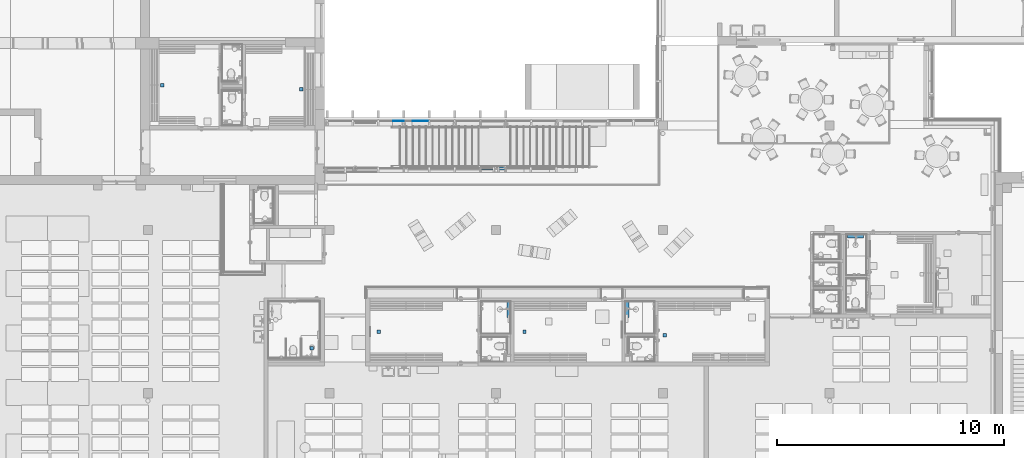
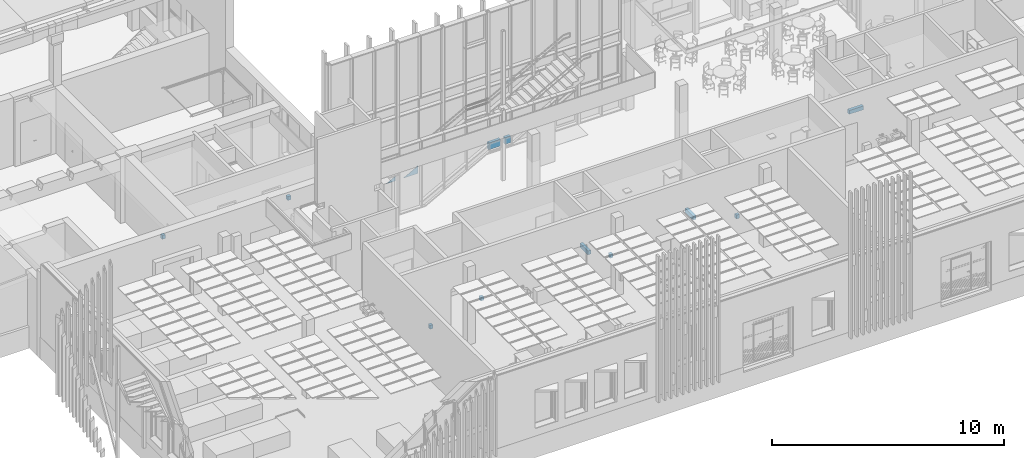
# One storey, part 83 of 301: 9 slabs, 4 plates, 3 elements without a shape of their own.
"""IFC2X3 building model written with IfcOpenShell, lengths in millimetres."""

from ifc_helpers import new_model, entity, si_unit, converted_unit, derived_unit, money_unit, direction, frame, origin_with_axes, place, context, subcontext, project, spatial, faceted_brep, material, type_object, element, aggregate, save


model = new_model("IFC2X3")

# Units and contexts
model_context = context("Model", 3, precision=0.01, world=origin_with_axes(), true_north=direction((0.0, 1.0)))
body_context = subcontext(model_context, "Body", "Model", "MODEL_VIEW")
ifc_project = project(units=[si_unit("LENGTHUNIT", "METRE", prefix="MILLI"), si_unit("AREAUNIT", "SQUARE_METRE"), si_unit("VOLUMEUNIT", "CUBIC_METRE"), converted_unit("PLANEANGLEUNIT", "DEGREE", entity("IfcPlaneAngleMeasure", 0.0174532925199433), si_unit("PLANEANGLEUNIT", "RADIAN"), dimensions=[0, 0, 0, 0, 0, 0, 0]), money_unit("EUR"), converted_unit("TIMEUNIT", "Year", entity("IfcTimeMeasure", 31557600.0), si_unit("TIMEUNIT", "SECOND"), dimensions=[0, 0, 1, 0, 0, 0, 0]), si_unit("MASSUNIT", "GRAM", prefix="KILO"), si_unit("THERMODYNAMICTEMPERATUREUNIT", "DEGREE_CELSIUS"), si_unit("LUMINOUSINTENSITYUNIT", "LUMEN"), si_unit("ENERGYUNIT", "JOULE", prefix="MEGA"), derived_unit("THERMALCONDUCTANCEUNIT", [(si_unit("POWERUNIT", "WATT"), 1), (si_unit("LENGTHUNIT", "METRE"), -1), (si_unit("THERMODYNAMICTEMPERATUREUNIT", "KELVIN"), -1)]), derived_unit("SPECIFICHEATCAPACITYUNIT", [(si_unit("ENERGYUNIT", "JOULE"), 1), (si_unit("MASSUNIT", "GRAM", prefix="KILO"), -1), (si_unit("THERMODYNAMICTEMPERATUREUNIT", "KELVIN"), -1)]), derived_unit("MASSDENSITYUNIT", [(si_unit("MASSUNIT", "GRAM", prefix="KILO"), 1), (si_unit("VOLUMEUNIT", "CUBIC_METRE"), -1)])], contexts=[model_context])

# Site, building, storey
site_placement = place(None, frame((0.0, 0.0, 8650.0), z_axis=(0.0, 0.0, 1.0), x_axis=(1.0, 0.0, 0.0)))
site = spatial("IfcSite", under=ifc_project, at=site_placement, Name="43301:001:0844", CompositionType="ELEMENT")
building_placement = place(site_placement, origin_with_axes())
building = spatial("IfcBuilding", under=site, at=building_placement, Name="Kuressaare Ametikooli tuulikute mehaanikute õppekorpus", CompositionType="ELEMENT")
storey_placement = place(building_placement, origin_with_axes())
storey = spatial("IfcBuildingStorey", under=building, at=storey_placement, Name="1.korrus", CompositionType="ELEMENT", Elevation=0.0)

# Curtain wall, plates
curtain_wall_type = type_object("IfcCurtainWallType", Name="Curtain Wall Type", PredefinedType="NOTDEFINED")
curtain_wall_1_placement = place(storey_placement, frame((116704.6026822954, 28579.57374875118, 35.00000000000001), z_axis=(0.0, 0.0, 1.0), x_axis=(1.0, 0.0, 0.0)))
curtain_wall_1 = element("IfcCurtainWall", 1, at=curtain_wall_1_placement, inside=storey, type_object=curtain_wall_type, Name="KF-1.1")
ifc_material_1 = material(Name="Klaas")
plate_type_1 = type_object("IfcPlateType", Name="Main Panel 733 x 383 x 20", PredefinedType="NOTDEFINED")
plate_1_placement = place(curtain_wall_1_placement, frame((-8626.956418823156, 0.0, 200.1119214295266), z_axis=(0.0, 0.0, 1.0), x_axis=(-1.0, 0.0, 0.0)))
plate_1 = element("IfcPlate", 2, at=plate_1_placement, type_object=plate_type_1, material=ifc_material_1, context=body_context, shape_type="Brep", body=[
    faceted_brep([(-184.4564206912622, 10.00000000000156, 203.5014267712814), (-184.4564206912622, -10.00000000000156, 203.5014267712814), (548.705108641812, -10.00000000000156, -195.1119232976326), (548.705108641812, 10.00000000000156, -195.1119232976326), (-184.4564206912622, 10.00000000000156, 188.3127378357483), (-184.4564206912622, -10.00000000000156, 188.3127378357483), (-184.4564206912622, -10.00000000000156, -195.1119232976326), (-184.4564206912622, 10.00000000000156, -195.1119232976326)], [[[0, 1, 2, 3]], [[4, 5, 1, 0]], [[1, 5, 6, 2]], [[3, 2, 6, 7]], [[0, 3, 7, 4]], [[7, 6, 5, 4]]]),
])
ifc_material_2 = material(Name="Aluminium")
plate_type_2 = type_object("IfcPlateType", Name="454 x 247 x 20", PredefinedType="NOTDEFINED")
plate_2_placement = place(curtain_wall_1_placement, frame((-9721.96157432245, 0.0, 86.69782703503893), z_axis=(0.0, 0.0, 1.0), x_axis=(-1.0, 0.0, 0.0)))
plate_2 = element("IfcPlate", 3, at=plate_2_placement, type_object=plate_type_2, material=ifc_material_2, context=body_context, shape_type="Brep", body=[
    faceted_brep([(-154.4615775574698, 9.99999999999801, 164.9859806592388), (-154.4615775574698, -10.00000000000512, 164.9859806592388), (299.2589989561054, -10.00000000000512, -81.69783027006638), (299.2589989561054, 9.99999999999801, -81.69783027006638), (-154.4615775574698, 9.99999999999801, -81.69783027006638), (-154.4615775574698, -10.00000000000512, -81.69783027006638)], [[[0, 1, 2, 3]], [[4, 5, 1, 0]], [[1, 5, 2]], [[3, 2, 5, 4]], [[0, 3, 4]]]),
])
aggregate(curtain_wall_1, [plate_1, plate_2])

# Slabs
ifc_material_3 = material(Name="GENEERILINE - KONSTRUKTRIOON")
slab_type = type_object("IfcSlabType", Name="GENEERILINE - KONSTRUKTRIOON 200", PredefinedType="NOTDEFINED")
slab_1_placement = place(storey_placement, frame((127405.2610673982, 23424.06892395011, 0.0), z_axis=(0.0, 0.0, 1.0), x_axis=(1.0, 0.0, 0.0)))
element("IfcSlab", 4, at=slab_1_placement, inside=storey, type_object=slab_type, material=ifc_material_3, Name="Põrandatrapp", PredefinedType="NOTDEFINED", context=body_context, shape_type="Brep", body=[
    faceted_brep([(0.0, 0.0, 0.0), (0.0, 0.0, -200.0), (0.0, 149.9999999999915, -200.0), (0.0, 149.9999999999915, 0.0), (-700.0000535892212, 0.0, 0.0), (-700.0000535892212, 0.0, -200.0), (-700.0000535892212, 149.9999999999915, -200.0), (-700.0000535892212, 149.9999999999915, 0.0)], [[[0, 1, 2, 3]], [[4, 5, 1, 0]], [[2, 1, 5, 6]], [[3, 2, 6, 7]], [[4, 0, 3, 7]], [[7, 6, 5, 4]]]),
])
slab_2_placement = place(storey_placement, frame((111695.512280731, 20614.8359121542, 0.0), z_axis=(0.0, 0.0, 1.0), x_axis=(1.0, 0.0, 0.0)))
element("IfcSlab", 5, at=slab_2_placement, inside=storey, type_object=slab_type, material=ifc_material_3, Name="Põrandatrapp", PredefinedType="NOTDEFINED", context=body_context, shape_type="Brep", body=[
    faceted_brep([(0.0, 0.0, 0.0), (0.0, 0.0, -200.0), (0.0, -700.0000535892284, -200.0), (0.0, -700.0000535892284, 0.0), (149.9999999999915, 0.0, 0.0), (149.9999999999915, 0.0, -200.0), (149.9999999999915, -700.0000535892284, -200.0), (149.9999999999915, -700.0000535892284, 0.0)], [[[0, 1, 2, 3]], [[4, 5, 1, 0]], [[2, 1, 5, 6]], [[3, 2, 6, 7]], [[4, 0, 3, 7]], [[7, 6, 5, 4]]]),
])
slab_3_placement = place(storey_placement, frame((117065.2601136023, 20614.83644703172, 0.0), z_axis=(0.0, 0.0, 1.0), x_axis=(1.0, 0.0, 0.0)))
element("IfcSlab", 6, at=slab_3_placement, inside=storey, type_object=slab_type, material=ifc_material_3, Name="Põrandatrapp", PredefinedType="NOTDEFINED", context=body_context, shape_type="Brep", body=[
    faceted_brep([(0.0, 0.0, 0.0), (0.0, 0.0, -200.0), (-149.9999999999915, 0.0, -200.0), (-149.9999999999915, 0.0, 0.0), (0.0, -700.0000535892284, 0.0), (0.0, -700.0000535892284, -200.0), (-149.9999999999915, -700.0000535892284, -200.0), (-149.9999999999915, -700.0000535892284, 0.0)], [[[0, 1, 2, 3]], [[4, 5, 1, 0]], [[2, 1, 5, 6]], [[3, 2, 6, 7]], [[4, 0, 3, 7]], [[7, 6, 5, 4]]]),
])
for number, where, z_axis, x_axis in (
    (7, (112540.5152447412, 19364.82456147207, 0.0), (0.0, 0.0, 1.0), (1.0, 0.0, 0.0)),
    (8, (106120.5120333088, 19364.8237647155, 0.0), (0.0, 0.0, 1.0), (1.0, 0.0, 0.0)),
    (9, (118720.2606526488, 19204.83666563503, 0.0), (0.0, 0.0, 1.0), (1.0, 0.0, 0.0)),
    (10, (103170.5116032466, 18624.79398824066, 0.0), (0.0, 0.0, 1.0), (1.0, 0.0, 0.0)),
    (11, (96572.90113090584, 30229.84561699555, 0.0), (0.0, 0.0, 1.0), (1.0, 0.0, 0.0)),
    (12, (102702.5124213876, 30048.0689504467, 0.0), (0.0, 0.0, 1.0), (1.0, 0.0, 0.0)),
):
    element("IfcSlab", number, at=place(storey_placement, frame(where, z_axis=z_axis, x_axis=x_axis)), inside=storey, type_object=slab_type, material=ifc_material_3, Name="Põrandatrapp", PredefinedType="NOTDEFINED", context=body_context, shape_type="Brep", body=[
        faceted_brep([(0.0, 0.0, 0.0), (0.0, 0.0, -200.0), (-149.9999999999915, 0.0, -200.0), (-149.9999999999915, 0.0, 0.0), (0.0, -150.0000535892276, 0.0), (0.0, -150.0000535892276, -200.0), (-149.9999999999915, -150.0000535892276, -200.0), (-149.9999999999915, -150.0000535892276, 0.0)], [[[0, 1, 2, 3]], [[4, 5, 1, 0]], [[2, 1, 5, 6]], [[3, 2, 6, 7]], [[4, 0, 3, 7]], [[7, 6, 5, 4]]]),
    ])

# Curtain wall, plate
curtain_wall_2_placement = place(storey_placement, frame((105155.4360221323, 26479.57374875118, 34.99996632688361), z_axis=(0.0, 0.0, 1.0), x_axis=(1.0, 0.0, 0.0)))
curtain_wall_2 = element("IfcCurtainWall", 13, at=curtain_wall_2_placement, inside=storey, type_object=curtain_wall_type, Name="SKF-1.1,EI60")
plate_type_3 = type_object("IfcPlateType", Name="Distinct Panel 34 x 5 x 150", PredefinedType="NOTDEFINED")
plate_3_placement = place(curtain_wall_2_placement, frame((5621.233576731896, 0.0, 1947.897923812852), z_axis=(0.0, 0.0, 1.0), x_axis=(-1.0, 0.0, 0.0)))
plate_3 = element("IfcPlate", 14, at=plate_3_placement, type_object=plate_type_3, material=ifc_material_2, context=body_context, shape_type="Brep", body=[
    faceted_brep([(-326.279712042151, 75.0000000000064, 165.6509462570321), (-326.279712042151, -74.99999999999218, 165.6509462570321), (-292.3793530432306, -74.99999999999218, 165.6509462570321), (-292.3793530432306, 75.0000000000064, 165.6509462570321), (-326.279712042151, 75.0000000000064, -198.1980435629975), (-326.279712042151, -74.99999999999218, -198.1980435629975), (-303.166560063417, -74.99999999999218, -198.1980435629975), (-303.166560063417, -74.99999999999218, -193.1980411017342), (254.566914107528, -74.99999999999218, -193.1980411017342), (254.566914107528, -74.99999999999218, 149.935826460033), (234.8616197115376, -74.99999999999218, 160.6509437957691), (-292.3793530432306, -74.99999999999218, 160.6509437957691), (-292.3793530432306, 75.0000000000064, 160.6509437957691), (234.8616197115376, 75.0000000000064, 160.6509437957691), (254.566914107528, 75.0000000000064, 149.935826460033), (254.566914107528, 75.0000000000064, -193.1980411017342), (-303.166560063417, 75.0000000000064, -193.1980411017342), (-303.166560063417, 75.0000000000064, -198.1980435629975)], [[[0, 1, 2, 3]], [[4, 5, 1, 0]], [[1, 5, 6, 7, 8, 9, 10, 11, 2]], [[3, 2, 11, 12]], [[0, 3, 12, 13, 14, 15, 16, 17, 4]], [[17, 6, 5, 4]], [[16, 7, 6, 17]], [[15, 8, 7, 16]], [[14, 9, 8, 15]], [[13, 10, 9, 14]], [[12, 11, 10, 13]]]),
])
aggregate(curtain_wall_2, [plate_3])

curtain_wall_3_placement = place(storey_placement, frame((111472.5258007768, 26479.57374875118, 1595.348937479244), z_axis=(0.0, 0.0, 1.0), x_axis=(1.0, 0.0, 0.0)))
curtain_wall_3 = element("IfcCurtainWall", 15, at=curtain_wall_3_placement, inside=storey, type_object=curtain_wall_type, Name="SKF-1.2,EI60")
plate_type_4 = type_object("IfcPlateType", Name="279 x 353 x 150", PredefinedType="NOTDEFINED")
plate_4_placement = place(curtain_wall_3_placement, frame((28.91532636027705, 0.0, 402.5927238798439), z_axis=(0.0, 0.0, 1.0), x_axis=(-1.0, 0.0, 0.0)))
plate_4 = element("IfcPlate", 16, at=plate_4_placement, type_object=plate_type_4, material=ifc_material_2, context=body_context, shape_type="Brep", body=[
    faceted_brep([(-110.6613174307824, 75.00000000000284, 144.8716674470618), (-110.6613174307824, -74.99999999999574, 144.8716674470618), (168.4919747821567, -74.99999999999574, 144.8716674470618), (168.4919747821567, 75.00000000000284, 144.8716674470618), (-110.6613174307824, 75.00000000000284, 126.7403670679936), (-110.6613174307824, -74.99999999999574, 126.7403670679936), (-110.6613174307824, -74.99999999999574, -208.241851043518), (168.4919747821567, -74.99999999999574, -208.241851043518), (168.4919747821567, 75.00000000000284, -208.241851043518), (-110.6613174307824, 75.00000000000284, -208.241851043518)], [[[0, 1, 2, 3]], [[4, 5, 1, 0]], [[1, 5, 6, 7, 2]], [[3, 2, 7, 8]], [[0, 3, 8, 9, 4]], [[9, 6, 5, 4]], [[8, 7, 6, 9]]]),
])
aggregate(curtain_wall_3, [plate_4])

save(model, "model.ifc")
